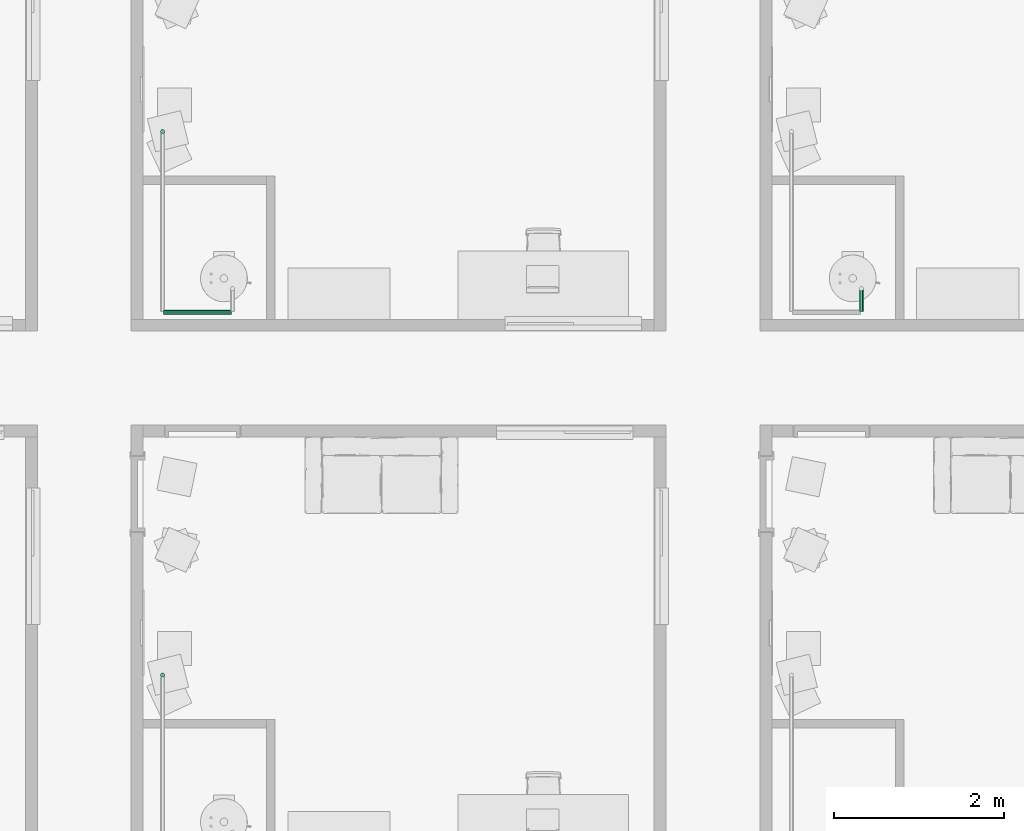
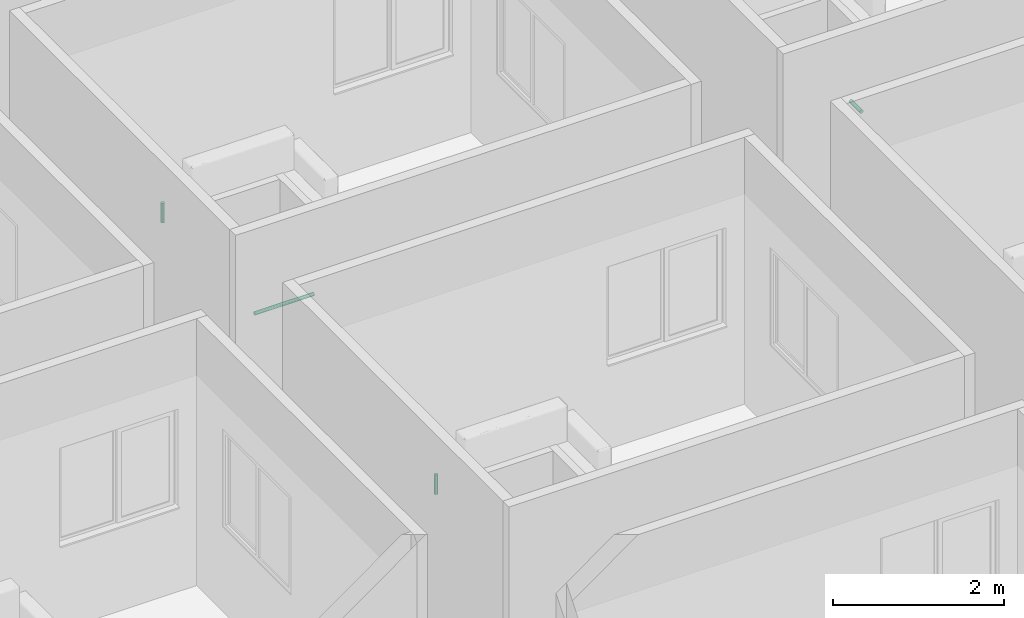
# One storey, part 43 of 69: 4 pipe segments.
"""IFC4 building model written with IfcOpenShell, lengths in centimetres."""

from ifc_helpers import new_model, entity, si_unit, converted_unit, derived_unit, direction, frame, origin, place, context, subcontext, project, spatial, arc, indexed_curve, outline, extrude, type_object, element, save


model = new_model("IFC4")

# Units and contexts
model_context = context("Model", 3, precision=0.001, world=origin(), true_north=direction((6.123233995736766e-17, 1.0)))
body_context = subcontext(model_context, "Body", "Model", "MODEL_VIEW")
ifc_project = project(units=[si_unit("LENGTHUNIT", "METRE", prefix="CENTI"), si_unit("AREAUNIT", "SQUARE_METRE"), si_unit("VOLUMEUNIT", "CUBIC_METRE"), derived_unit("THERMALTRANSMITTANCEUNIT", [(si_unit("MASSUNIT", "GRAM", prefix="KILO"), 1), (si_unit("THERMODYNAMICTEMPERATUREUNIT", "KELVIN"), -1), (si_unit("TIMEUNIT", "SECOND"), -3)]), converted_unit("PLANEANGLEUNIT", "DEGREE", entity("IfcPlaneAngleMeasure", 0.017453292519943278), si_unit("PLANEANGLEUNIT", "RADIAN"), dimensions=[0, 0, 0, 0, 0, 0, 0]), derived_unit("MASSDENSITYUNIT", [(si_unit("MASSUNIT", "GRAM", prefix="KILO"), 1), (si_unit("LENGTHUNIT", "METRE"), -3)]), derived_unit("VAPORPERMEABILITYUNIT", [(si_unit("LENGTHUNIT", "METRE"), -1), (si_unit("TIMEUNIT", "SECOND"), 1)]), derived_unit("USERDEFINED", [(si_unit("MASSUNIT", "GRAM", prefix="KILO"), 1), (si_unit("TIMEUNIT", "SECOND"), -3), (si_unit("LENGTHUNIT", "METRE"), 3), (si_unit("ELECTRICCURRENTUNIT", "AMPERE"), -2)]), derived_unit("SPECIFICHEATCAPACITYUNIT", [(si_unit("THERMODYNAMICTEMPERATUREUNIT", "KELVIN"), -1), (si_unit("LENGTHUNIT", "METRE"), 2), (si_unit("TIMEUNIT", "SECOND"), -2)]), derived_unit("THERMALCONDUCTANCEUNIT", [(si_unit("MASSUNIT", "GRAM", prefix="KILO"), 1), (si_unit("THERMODYNAMICTEMPERATUREUNIT", "KELVIN"), -1), (si_unit("TIMEUNIT", "SECOND"), -3), (si_unit("LENGTHUNIT", "METRE"), 1)]), si_unit("PRESSUREUNIT", "PASCAL"), derived_unit("MODULUSOFELASTICITYUNIT", [(si_unit("MASSUNIT", "GRAM", prefix="KILO"), 1), (si_unit("LENGTHUNIT", "METRE"), -1), (si_unit("TIMEUNIT", "SECOND"), -2)]), derived_unit("THERMALEXPANSIONCOEFFICIENTUNIT", [(si_unit("THERMODYNAMICTEMPERATUREUNIT", "KELVIN"), -1)])], contexts=[model_context])

# Site, building, storey
site_placement = place(None, origin())
site = spatial("IfcSite", under=ifc_project, at=site_placement, Name="Default", CompositionType="ELEMENT")
building_placement = place(site_placement, origin())
building = spatial("IfcBuilding", under=site, at=building_placement, Name="IDS Escape Game Building", CompositionType="ELEMENT")
storey_placement = place(building_placement, origin())
storey = spatial("IfcBuildingStorey", under=building, at=storey_placement, Name="00_Ground Floor", CompositionType="ELEMENT", Elevation=0.0)

# Pipe segments
pipe_segment_type = type_object("IfcPipeSegmentType", Name="Pipe Types:Piping Aluminum", PredefinedType="NOTDEFINED")
pipe_segment_1_placement = place(storey_placement, origin())
element("IfcPipeSegment", 1, at=pipe_segment_1_placement, inside=storey, type_object=pipe_segment_type, Name="Pipe Types:Piping Aluminum", ObjectType="Pipe Types:Piping Aluminum", PredefinedType="NOTDEFINED", context=body_context, shape_type="SweptSolid", body=[
    extrude(outline(indexed_curve([(2.412999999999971, 0.0), (1.7062486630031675, 1.7062486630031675), (0.0, 2.412999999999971), (-1.7062486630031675, 1.7062486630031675), (-2.412999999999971, 0.0), (-1.7062486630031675, -1.7062486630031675), (0.0, -2.412999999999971), (1.7062486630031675, -1.7062486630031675)], segments=[arc(1, 2, 3), arc(3, 4, 5), arc(5, 6, 7), arc(7, 8, 1)], self_intersect=False)), frame((1506.0467168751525, 871.26482792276, 244.0999999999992), z_axis=(0.0, 0.0, 1.0), x_axis=(-1.0, 0.0, 0.0)), (0.0, 0.0, 1.0), 27.90000000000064),
])
pipe_segment_2_placement = place(storey_placement, origin())
element("IfcPipeSegment", 2, at=pipe_segment_2_placement, inside=storey, type_object=pipe_segment_type, Name="Pipe Types:Piping Aluminum", ObjectType="Pipe Types:Piping Aluminum", PredefinedType="NOTDEFINED", context=body_context, shape_type="SweptSolid", body=[
    extrude(outline(indexed_curve([(2.412999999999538, -2.165734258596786e-13), (1.7062486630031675, 1.7062486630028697), (4.331468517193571e-13, 2.4130000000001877), (-1.706248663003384, 1.7062486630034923), (-2.4130000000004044, -1.6243006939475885e-13), (-1.7062486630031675, -1.706248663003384), (4.3314685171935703e-13, -2.412999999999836), (1.7062486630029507, -1.7062486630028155)], segments=[arc(1, 2, 3), arc(3, 4, 5), arc(5, 6, 7), arc(7, 8, 1)], self_intersect=False)), frame((1507.1467168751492, 1297.2648279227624, 242.0), z_axis=(1.0, 0.0, 0.0), x_axis=(0.0, 1.0, 0.0)), (0.0, 0.0, 1.0), 79.90328312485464),
])
pipe_segment_3_placement = place(storey_placement, origin())
element("IfcPipeSegment", 3, at=pipe_segment_3_placement, inside=storey, type_object=pipe_segment_type, Name="Pipe Types:Piping Aluminum", ObjectType="Pipe Types:Piping Aluminum", PredefinedType="NOTDEFINED", context=body_context, shape_type="SweptSolid", body=[
    extrude(outline(indexed_curve([(2.412999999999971, 0.0), (1.7062486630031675, 1.7062486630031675), (0.0, 2.412999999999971), (-1.7062486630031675, 1.7062486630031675), (-2.412999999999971, 0.0), (-1.7062486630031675, -1.7062486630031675), (0.0, -2.412999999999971), (1.7062486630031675, -1.7062486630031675)], segments=[arc(1, 2, 3), arc(3, 4, 5), arc(5, 6, 7), arc(7, 8, 1)], self_intersect=False)), frame((1506.0467168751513, 1509.2648279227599, 244.0999999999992), z_axis=(0.0, 0.0, 1.0), x_axis=(-1.0, 0.0, 0.0)), (0.0, 0.0, 1.0), 27.90000000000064),
])
pipe_segment_4_placement = place(storey_placement, origin())
element("IfcPipeSegment", 4, at=pipe_segment_4_placement, inside=storey, type_object=pipe_segment_type, Name="Pipe Types:Piping Aluminum", ObjectType="Pipe Types:Piping Aluminum", PredefinedType="NOTDEFINED", context=body_context, shape_type="SweptSolid", body=[
    extrude(outline(indexed_curve([(2.4129999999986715, -2.7071678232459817e-14), (1.7062486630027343, 1.7062486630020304), (1.7325874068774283e-12, 2.412999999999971), (-1.7062486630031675, 1.7062486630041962), (-2.413000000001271, -2.7071678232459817e-14), (-1.7062486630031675, -1.7062486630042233), (1.7325874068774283e-12, -2.413000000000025), (1.7062486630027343, -1.7062486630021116)], segments=[arc(1, 2, 3), arc(3, 4, 5), arc(5, 6, 7), arc(7, 8, 1)], self_intersect=False)), frame((2326.1500000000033, 1298.3648279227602, 242.0), z_axis=(0.0, 1.0, 0.0), x_axis=(-1.0, 0.0, 0.0)), (0.0, 0.0, 1.0), 25.43517207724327),
])

save(model, "model.ifc")
